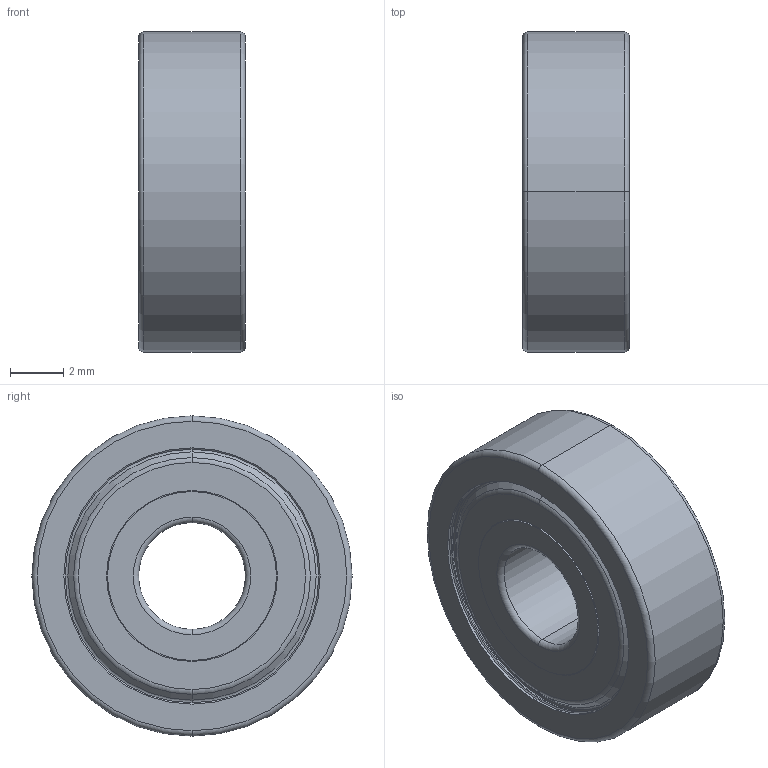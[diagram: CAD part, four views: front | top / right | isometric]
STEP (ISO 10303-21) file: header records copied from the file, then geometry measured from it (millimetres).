
FILE_DESCRIPTION((''),'2;1');
FILE_NAME('604ZZ_EA011','2025-12-19T16:13:33',('qinghui.yi'),(''),'CREO PARAMETRIC BY PTC INC, 2019164','CREO PARAMETRIC BY PTC INC, 2019164','');
FILE_SCHEMA(('CONFIG_CONTROL_DESIGN','SHAPE_APPEARANCE_LAYERS_GROUPS'));
Length unit declared in the file: millimetre
Products named in the file (1): 604ZZ_EA011
Bounding box: 4 x 12 x 12 mm (x, y, z)
Volume: 243.6 mm3; surface area: 711.8 mm2
Topology: 2 solids, 2 shells, 88 faces, 180 edges, 106 vertices
Faces by surface type: torus 34, cylinder 24, cone 16, plane 14
Entity records: 2595 total; most frequent: DIRECTION 496, CARTESIAN_POINT 374, ORIENTED_EDGE 360, AXIS2_PLACEMENT_3D 228, COLOUR_RGB 196, EDGE_CURVE 180, CIRCLE 140, VERTEX_POINT 106
